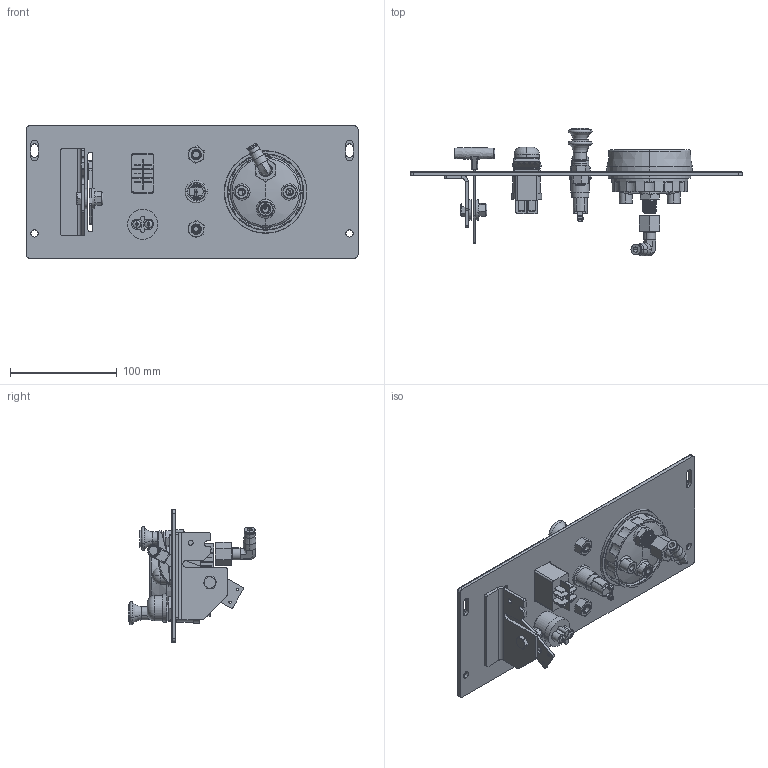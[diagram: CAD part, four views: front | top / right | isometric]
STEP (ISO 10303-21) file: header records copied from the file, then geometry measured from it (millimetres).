
FILE_DESCRIPTION (( 'STEP AP214' ), '1' );
FILE_NAME ('HPX-B18_B23_B35 X-STREAM PANEL ASSEMBLY.STEP', '2017-10-30T12:25:49', ( '' ), ( '' ), 'SwSTEP 2.0', 'SolidWorks 2016', '' );
FILE_SCHEMA (( 'AUTOMOTIVE_DESIGN' ));
Length unit declared in the file: millimetre
Products named in the file (1): HPX-B18_B23_B35 X-STREAM PANEL ASSEMBLY
Bounding box: 311.28 x 120 x 123.95 mm (x, y, z)
Surface area: 205934.3 mm2 (no closed solid volume)
Topology: 0 solids, 43 shells, 1266 faces, 8164 edges, 6776 vertices
Faces by surface type: plane 573, cylinder 293, torus 138, bspline 136, cone 113, sphere 13
Entity records: 108857 total; most frequent: CARTESIAN_POINT 36618, ORIENTED_EDGE 10715, DIRECTION 10633, EDGE_CURVE 8155, VERTEX_POINT 6774, LINE 6067, VECTOR 6067, AXIS2_PLACEMENT_3D 2283
